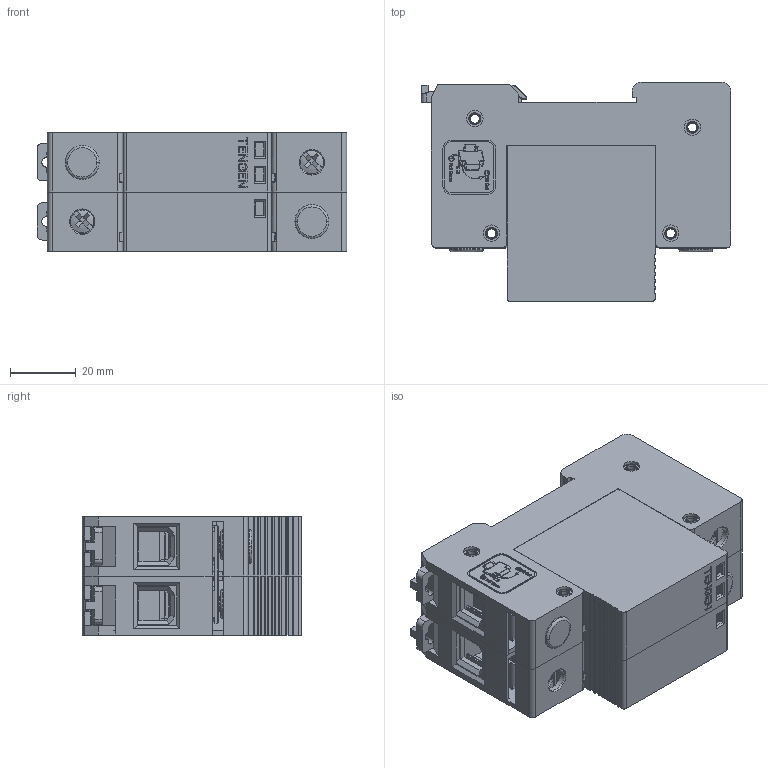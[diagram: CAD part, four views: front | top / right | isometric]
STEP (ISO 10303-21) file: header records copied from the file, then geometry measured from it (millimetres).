
FILE_DESCRIPTION((''),'2;1');
FILE_NAME('TENGEN_TGDY55II_100_385V_1P','2024-01-10T16:38:48',('zhanghualong1'),(''),'CREO PARAMETRIC BY PTC INC, 2020354','CREO PARAMETRIC BY PTC INC, 2020354','');
FILE_SCHEMA(('CONFIG_CONTROL_DESIGN'));
Products named in the file (1): TENGEN_TGDY55II_100_385V_1P
Bounding box: 94.1 x 66.7 x 36 mm (x, y, z)
Volume: 71018.2 mm3; surface area: 108770.3 mm2
Topology: 18 solids, 26 shells, 4403 faces, 11971 edges, 7753 vertices
Faces by surface type: plane 3121, cylinder 833, extrusion 230, cone 98, torus 80, bspline 24, sphere 17
Entity records: 141796 total; most frequent: CARTESIAN_POINT 30628, ORIENTED_EDGE 23922, DIRECTION 21447, EDGE_CURVE 11961, VECTOR 9707, LINE 9477, VERTEX_POINT 7753, AXIS2_PLACEMENT_3D 5870
